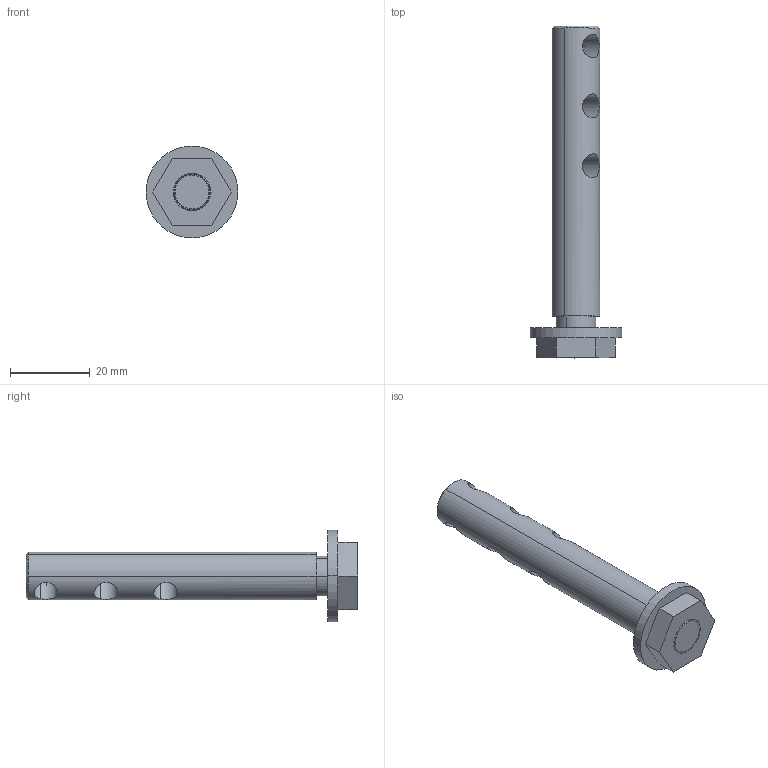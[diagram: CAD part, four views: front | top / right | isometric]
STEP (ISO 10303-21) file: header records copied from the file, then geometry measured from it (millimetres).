
FILE_DESCRIPTION(('STEP AP214'),'1');
FILE_NAME('EGT203_1706352_SPANNDORN_RD30.CATPart.stp','2015-09-14T13:13:00',('3D-Tool'),(' '),'Spatial InterOp 3D',' ',' ');
FILE_SCHEMA(('automotive_design'));
Length unit declared in the file: millimetre
Products named in the file (3): EGT203_1706352_SPANNDORN_RD30|EGT_203_MUTTER_M10|Hole.5; EGT203_1706352_SPANNDORN_RD30|EGT_203_SCHEIBE|Hole.4; EGT203_1706352_SPANNDORN_RD30|EGT203_SPANNDORN_RD30|Bohrbearbeitung
Bounding box: 23 x 83.1 x 23 mm (x, y, z)
Volume: 9831.4 mm3; surface area: 5465 mm2
Topology: 3 solids, 3 shells, 49 faces, 118 edges, 76 vertices
Faces by surface type: cylinder 26, plane 13, cone 7, torus 3
Entity records: 2374 total; most frequent: CARTESIAN_POINT 742, DIRECTION 249, ORIENTED_EDGE 236, EDGE_CURVE 118, AXIS2_PLACEMENT_3D 99, VERTEX_POINT 76, EDGE_LOOP 60, STYLED_ITEM 52
